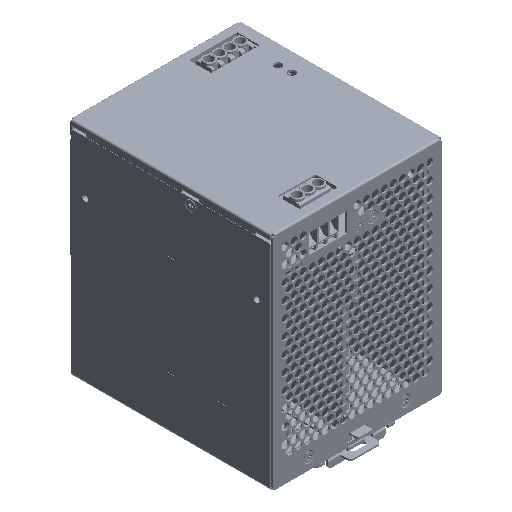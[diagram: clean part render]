
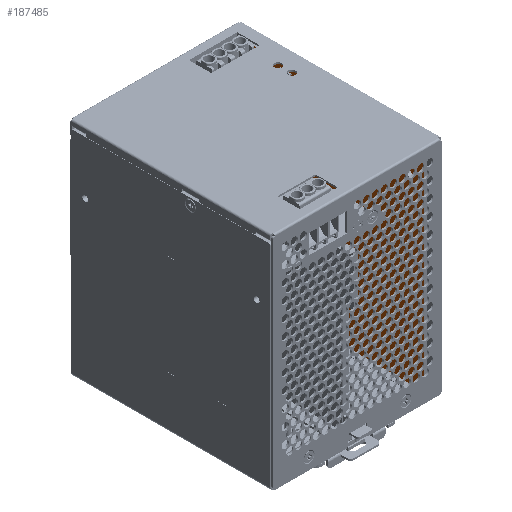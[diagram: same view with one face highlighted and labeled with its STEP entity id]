
A CAD part, isometric view. The second image highlights one B-rep face of the part: STEP entity #187485.
In plain terms, the highlighted planar face has unit normal (-1, 0, 0) as drawn and (0, -1, 0) by its records, which use the part's own axes.
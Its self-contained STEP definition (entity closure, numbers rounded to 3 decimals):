
#186980=DIRECTION('',(-1.,0.,0.));
#186981=VECTOR('',#186980,104.2);
#186982=CARTESIAN_POINT('',(52.1,0.,0.2));
#186983=LINE('',#186982,#186981);
#186987=DIRECTION('',(-0.707,0.,-0.707));
#186988=VECTOR('',#186987,1.414);
#186989=CARTESIAN_POINT('',(-52.1,0.,-1.));
#186990=LINE('',#186989,#186988);
#186994=DIRECTION('',(-0.707,0.,0.707));
#186995=VECTOR('',#186994,1.414);
#186996=CARTESIAN_POINT('',(-56.6,0.,-2.));
#186997=LINE('',#186996,#186995);
#187001=DIRECTION('',(0.707,0.,0.707));
#187002=VECTOR('',#187001,1.414);
#187003=CARTESIAN_POINT('',(-57.6,0.,129.6));
#187004=LINE('',#187003,#187002);
#187008=DIRECTION('',(1.,0.,0.));
#187009=VECTOR('',#187008,113.2);
#187010=CARTESIAN_POINT('',(-56.6,0.,130.6));
#187011=LINE('',#187010,#187009);
#187015=DIRECTION('',(0.707,0.,-0.707));
#187016=VECTOR('',#187015,1.414);
#187017=CARTESIAN_POINT('',(56.6,0.,130.6));
#187018=LINE('',#187017,#187016);
#187022=DIRECTION('',(-0.707,0.,-0.707));
#187023=VECTOR('',#187022,1.414);
#187024=CARTESIAN_POINT('',(57.6,0.,-1.));
#187025=LINE('',#187024,#187023);
#187029=DIRECTION('',(-0.707,0.,0.707));
#187030=VECTOR('',#187029,1.414);
#187031=CARTESIAN_POINT('',(53.1,0.,-2.));
#187032=LINE('',#187031,#187030);
#187036=CARTESIAN_POINT('',(-51.1,0.,7.8));
#187037=DIRECTION('',(0.,-1.,0.));
#187038=DIRECTION('',(-1.,0.,0.));
#187039=AXIS2_PLACEMENT_3D('',#187036,#187037,#187038);
#187044=CARTESIAN_POINT('',(-51.1,0.,7.8));
#187045=DIRECTION('',(0.,-1.,0.));
#187046=DIRECTION('',(1.,0.,0.));
#187047=AXIS2_PLACEMENT_3D('',#187044,#187045,#187046);
#187052=CARTESIAN_POINT('',(47.9,0.,110.4));
#187053=DIRECTION('',(0.,-1.,0.));
#187054=DIRECTION('',(-1.,0.,0.));
#187055=AXIS2_PLACEMENT_3D('',#187052,#187053,#187054);
#187060=CARTESIAN_POINT('',(47.9,0.,110.4));
#187061=DIRECTION('',(0.,-1.,0.));
#187062=DIRECTION('',(1.,0.,0.));
#187063=AXIS2_PLACEMENT_3D('',#187060,#187061,#187062);
#187075=DIRECTION('',(0.,0.,-1.));
#187076=VECTOR('',#187075,1.2);
#187077=CARTESIAN_POINT('',(52.1,0.,0.2));
#187078=LINE('',#187077,#187076);
#187170=DIRECTION('',(1.,0.,0.));
#187171=VECTOR('',#187170,3.5);
#187172=CARTESIAN_POINT('',(53.1,0.,-2.));
#187173=LINE('',#187172,#187171);
#187198=DIRECTION('',(0.,0.,1.));
#187199=VECTOR('',#187198,130.6);
#187200=CARTESIAN_POINT('',(57.6,0.,-1.));
#187201=LINE('',#187200,#187199);
#187254=DIRECTION('',(0.,0.,-1.));
#187255=VECTOR('',#187254,130.6);
#187256=CARTESIAN_POINT('',(-57.6,0.,129.6));
#187257=LINE('',#187256,#187255);
#187275=DIRECTION('',(1.,0.,0.));
#187276=VECTOR('',#187275,3.5);
#187277=CARTESIAN_POINT('',(-56.6,0.,-2.));
#187278=LINE('',#187277,#187276);
#187296=DIRECTION('',(0.,0.,1.));
#187297=VECTOR('',#187296,1.2);
#187298=CARTESIAN_POINT('',(-52.1,0.,-1.));
#187299=LINE('',#187298,#187297);
#187366=CARTESIAN_POINT('',(52.1,0.,0.2));
#187367=CARTESIAN_POINT('',(52.1,0.,-1.));
#187368=VERTEX_POINT('',#187366);
#187369=VERTEX_POINT('',#187367);
#187370=CARTESIAN_POINT('',(-52.1,0.,0.2));
#187371=VERTEX_POINT('',#187370);
#187372=CARTESIAN_POINT('',(-52.1,0.,-1.));
#187373=VERTEX_POINT('',#187372);
#187374=CARTESIAN_POINT('',(-53.1,0.,-2.));
#187375=VERTEX_POINT('',#187374);
#187376=CARTESIAN_POINT('',(-56.6,0.,-2.));
#187377=VERTEX_POINT('',#187376);
#187378=CARTESIAN_POINT('',(-57.6,0.,-1.));
#187379=VERTEX_POINT('',#187378);
#187380=CARTESIAN_POINT('',(-57.6,0.,129.6));
#187381=VERTEX_POINT('',#187380);
#187382=CARTESIAN_POINT('',(-56.6,0.,130.6));
#187383=VERTEX_POINT('',#187382);
#187384=CARTESIAN_POINT('',(56.6,0.,130.6));
#187385=VERTEX_POINT('',#187384);
#187386=CARTESIAN_POINT('',(57.6,0.,129.6));
#187387=VERTEX_POINT('',#187386);
#187388=CARTESIAN_POINT('',(57.6,0.,-1.));
#187389=VERTEX_POINT('',#187388);
#187390=CARTESIAN_POINT('',(56.6,0.,-2.));
#187391=VERTEX_POINT('',#187390);
#187392=CARTESIAN_POINT('',(53.1,0.,-2.));
#187393=VERTEX_POINT('',#187392);
#187394=CARTESIAN_POINT('',(-52.95,0.,7.8));
#187395=CARTESIAN_POINT('',(-49.25,0.,7.8));
#187396=VERTEX_POINT('',#187394);
#187397=VERTEX_POINT('',#187395);
#187398=CARTESIAN_POINT('',(45.55,0.,110.4));
#187399=CARTESIAN_POINT('',(50.25,0.,110.4));
#187400=VERTEX_POINT('',#187398);
#187401=VERTEX_POINT('',#187399);
#187438=CARTESIAN_POINT('',(0.,0.,0.));
#187439=DIRECTION('',(0.,1.,0.));
#187440=DIRECTION('',(1.,0.,0.));
#187441=AXIS2_PLACEMENT_3D('',#187438,#187439,#187440);
#187442=PLANE('',#187441);
#187444=ORIENTED_EDGE('',*,*,#187443,.F.);
#187446=ORIENTED_EDGE('',*,*,#187445,.T.);
#187448=ORIENTED_EDGE('',*,*,#187447,.F.);
#187450=ORIENTED_EDGE('',*,*,#187449,.T.);
#187452=ORIENTED_EDGE('',*,*,#187451,.F.);
#187454=ORIENTED_EDGE('',*,*,#187453,.T.);
#187456=ORIENTED_EDGE('',*,*,#187455,.F.);
#187458=ORIENTED_EDGE('',*,*,#187457,.T.);
#187460=ORIENTED_EDGE('',*,*,#187459,.T.);
#187462=ORIENTED_EDGE('',*,*,#187461,.T.);
#187464=ORIENTED_EDGE('',*,*,#187463,.F.);
#187466=ORIENTED_EDGE('',*,*,#187465,.T.);
#187468=ORIENTED_EDGE('',*,*,#187467,.F.);
#187470=ORIENTED_EDGE('',*,*,#187469,.T.);
#187471=EDGE_LOOP('',(#187444,#187446,#187448,#187450,#187452,#187454,#187456,
#187458,#187460,#187462,#187464,#187466,#187468,#187470));
#187472=FACE_OUTER_BOUND('',#187471,.F.);
#187474=ORIENTED_EDGE('',*,*,#187473,.T.);
#187476=ORIENTED_EDGE('',*,*,#187475,.T.);
#187477=EDGE_LOOP('',(#187474,#187476));
#187478=FACE_BOUND('',#187477,.F.);
#187480=ORIENTED_EDGE('',*,*,#187479,.T.);
#187482=ORIENTED_EDGE('',*,*,#187481,.T.);
#187483=EDGE_LOOP('',(#187480,#187482));
#187484=FACE_BOUND('',#187483,.F.);
#187040=CIRCLE('',#187039,1.85);
#187048=CIRCLE('',#187047,1.85);
#187056=CIRCLE('',#187055,2.35);
#187064=CIRCLE('',#187063,2.35);
#187443=EDGE_CURVE('',#187368,#187369,#187078,.T.);
#187445=EDGE_CURVE('',#187368,#187371,#186983,.T.);
#187447=EDGE_CURVE('',#187373,#187371,#187299,.T.);
#187449=EDGE_CURVE('',#187373,#187375,#186990,.T.);
#187451=EDGE_CURVE('',#187377,#187375,#187278,.T.);
#187453=EDGE_CURVE('',#187377,#187379,#186997,.T.);
#187455=EDGE_CURVE('',#187381,#187379,#187257,.T.);
#187457=EDGE_CURVE('',#187381,#187383,#187004,.T.);
#187459=EDGE_CURVE('',#187383,#187385,#187011,.T.);
#187461=EDGE_CURVE('',#187385,#187387,#187018,.T.);
#187463=EDGE_CURVE('',#187389,#187387,#187201,.T.);
#187465=EDGE_CURVE('',#187389,#187391,#187025,.T.);
#187467=EDGE_CURVE('',#187393,#187391,#187173,.T.);
#187469=EDGE_CURVE('',#187393,#187369,#187032,.T.);
#187473=EDGE_CURVE('',#187396,#187397,#187040,.T.);
#187475=EDGE_CURVE('',#187397,#187396,#187048,.T.);
#187479=EDGE_CURVE('',#187400,#187401,#187056,.T.);
#187481=EDGE_CURVE('',#187401,#187400,#187064,.T.);
#187485=ADVANCED_FACE('',(#187472,#187478,#187484),#187442,.F.);
